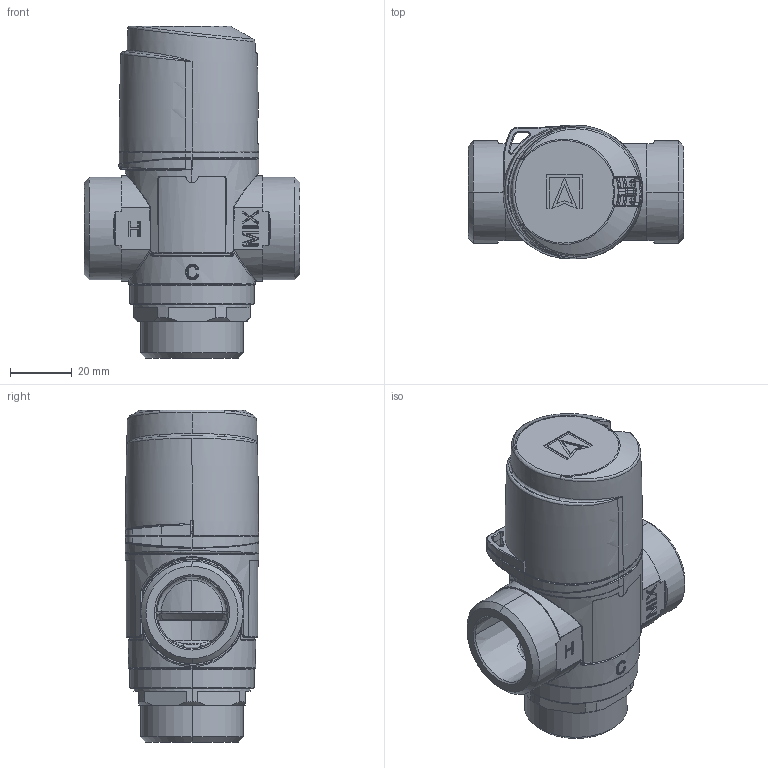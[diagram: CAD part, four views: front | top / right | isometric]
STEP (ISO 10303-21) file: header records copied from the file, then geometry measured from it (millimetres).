
FILE_DESCRIPTION (( 'STEP AP214' ), '1' );
FILE_NAME ('ATM561.STEP', '2022-02-09T07:39:58', ( '' ), ( '' ), 'SwSTEP 2.0', 'SolidWorks 2021', '' );
FILE_SCHEMA (( 'AUTOMOTIVE_DESIGN' ));
Length unit declared in the file: millimetre
Products named in the file (7): 21780; 67082; ATM561; 67196; 67079; 67081; 41181
Assembly tree (6 placements, depth 2):
  ATM561
    41181
    67082
    67079
    21780
    67196
    67081
Bounding box: 70 x 43.4 x 107.75 mm (x, y, z)
Volume: 55591.3 mm3; surface area: 61907.8 mm2
Topology: 4 solids, 458 shells, 3716 faces, 9829 edges, 6372 vertices
Faces by surface type: bspline 1913, cylinder 1061, plane 481, cone 251, torus 10
Entity records: 202300 total; most frequent: CARTESIAN_POINT 96206, ORIENTED_EDGE 16984, DIRECTION 12392, EDGE_CURVE 9605, VERTEX_POINT 6371, AXIS2_PLACEMENT_3D 5059, B_SPLINE_CURVE_WITH_KNOTS 3782, EDGE_LOOP 3777
